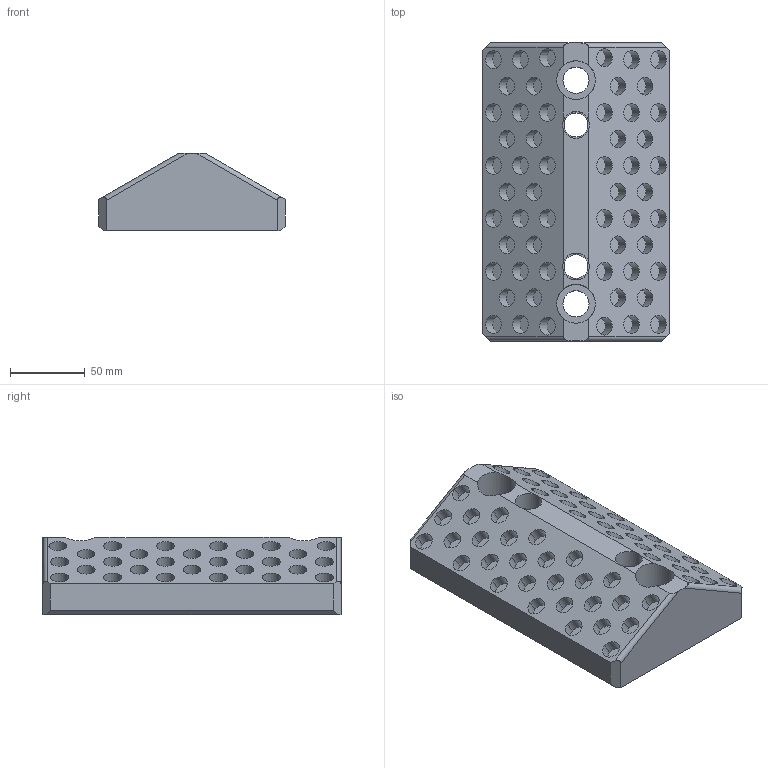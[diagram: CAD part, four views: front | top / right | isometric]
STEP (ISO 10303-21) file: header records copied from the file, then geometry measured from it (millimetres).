
FILE_DESCRIPTION (( 'STEP AP214' ), '1' );
FILE_NAME ('SW232-03-125x200.STEP', '2020-10-21T09:14:07', ( 'August' ), ( '' ), 'SwSTEP 2.0', 'SolidWorks 2018', '' );
FILE_SCHEMA (( 'AUTOMOTIVE_DESIGN' ));
Length unit declared in the file: millimetre
Products named in the file (1): SW232-03-125x200
Bounding box: 125 x 200 x 52 mm (x, y, z)
Volume: 833797.3 mm3; surface area: 100870.9 mm2
Topology: 1 solids, 1 shells, 210 faces, 456 edges, 304 vertices
Faces by surface type: cylinder 132, plane 78
Entity records: 6811 total; most frequent: CARTESIAN_POINT 1474, DIRECTION 1102, ORIENTED_EDGE 912, AXIS2_PLACEMENT_3D 463, EDGE_CURVE 456, VERTEX_POINT 304, EDGE_LOOP 274, CIRCLE 252
